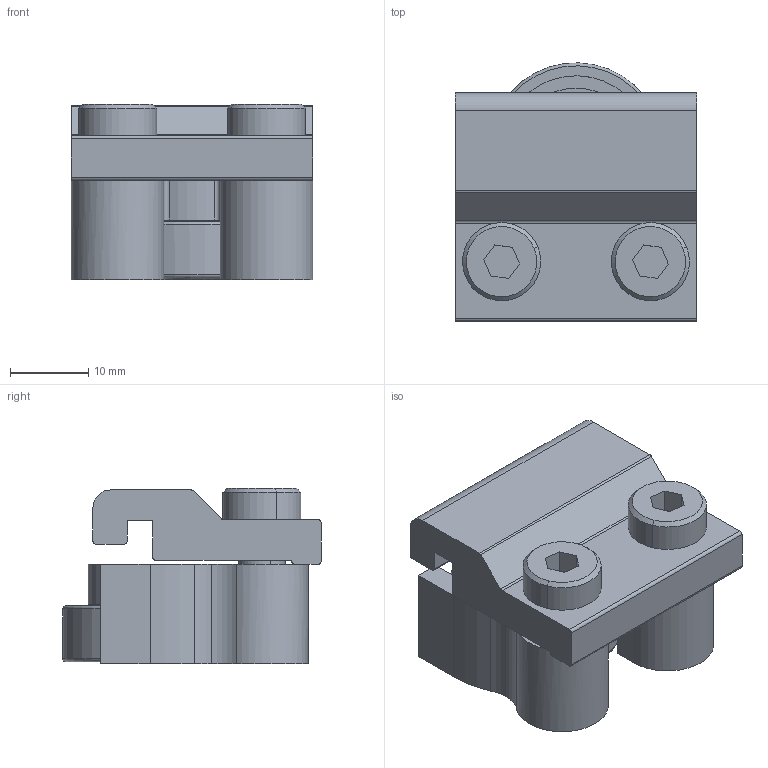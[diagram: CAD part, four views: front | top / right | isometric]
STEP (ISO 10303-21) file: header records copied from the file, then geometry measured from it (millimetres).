
FILE_DESCRIPTION((''),'2;1');
FILE_NAME('206522_ASM','2023-02-27T',('jenni.wallner'),(''),'PRO/ENGINEER BY PARAMETRIC TECHNOLOGY CORPORATION, 2012420','PRO/ENGINEER BY PARAMETRIC TECHNOLOGY CORPORATION, 2012420','');
FILE_SCHEMA(('CONFIG_CONTROL_DESIGN'));
Length unit declared in the file: inch
Products named in the file (7): 9506XXM_950616M; 240825; 913-100; 205977_205978_205979_205978; 802-027; ASM0001_ASM; 206522_ASM
Assembly tree (7 placements, depth 3):
  206522_ASM
    ASM0001_ASM
      9506XXM_950616M  x2
      240825
      913-100
      205977_205978_205979_205978
      802-027
Bounding box: 30.89 x 33.07 x 22.41 mm (x, y, z)
Volume: 14167.1 mm3; surface area: 9378.1 mm2
Topology: 6 solids, 6 shells, 129 faces, 331 edges, 220 vertices
Faces by surface type: cylinder 55, plane 54, cone 12, torus 8
Entity records: 3751 total; most frequent: DIRECTION 701, CARTESIAN_POINT 620, ORIENTED_EDGE 586, EDGE_CURVE 293, AXIS2_PLACEMENT_3D 277, VERTEX_POINT 196, VECTOR 147, LINE 147
